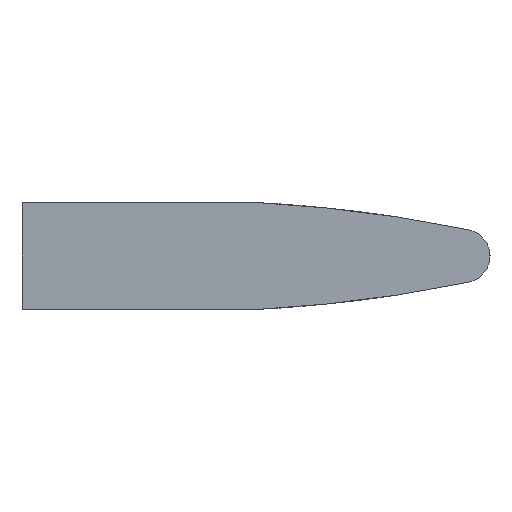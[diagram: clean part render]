
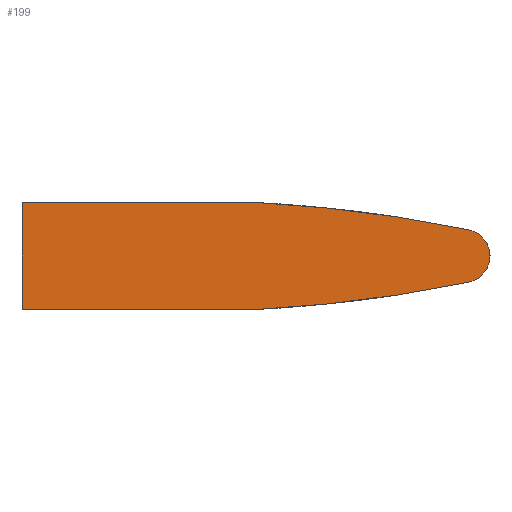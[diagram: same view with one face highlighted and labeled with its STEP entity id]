
A CAD part, left-side view. The second image highlights one B-rep face of the part: STEP entity #199.
In plain terms, the highlighted planar face has unit normal (-1, 0, 0).
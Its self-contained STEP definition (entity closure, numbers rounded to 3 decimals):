
#175 = VERTEX_POINT( '', #450 );
#177 = EDGE_CURVE( '', #353, #175, #452, .T. );
#191 = EDGE_CURVE( '', #275, #379, #466, .T. );
#197 = EDGE_CURVE( '', #341, #345, #472, .T. );
#199 = ADVANCED_FACE( '', ( #474 ), #475, .F. );
#241 = EDGE_CURVE( '', #379, #353, #520, .T. );
#259 = EDGE_CURVE( '', #345, #351, #540, .T. );
#271 = EDGE_CURVE( '', #351, #275, #553, .T. );
#275 = VERTEX_POINT( '', #557 );
#335 = EDGE_CURVE( '', #175, #341, #622, .T. );
#341 = VERTEX_POINT( '', #630 );
#345 = VERTEX_POINT( '', #634 );
#351 = VERTEX_POINT( '', #640 );
#353 = VERTEX_POINT( '', #642 );
#379 = VERTEX_POINT( '', #671 );
#450 = CARTESIAN_POINT( '', ( -26.5, -35., 0. ) );
#452 = CIRCLE( '', #769, 2. );
#466 = LINE( '', #790, #791 );
#472 = CIRCLE( '', #800, 106.818 );
#474 = FACE_OUTER_BOUND( '', #802, .T. );
#475 = PLANE( '', #803 );
#520 = CIRCLE( '', #897, 106.818 );
#540 = LINE( '', #925, #926 );
#553 = LINE( '', #940, #941 );
#557 = CARTESIAN_POINT( '', ( -26.5, 0., 4. ) );
#622 = CIRCLE( '', #1036, 2. );
#630 = CARTESIAN_POINT( '', ( -26.5, -33.402, -1.963 ) );
#634 = CARTESIAN_POINT( '', ( -26.5, -17.5, -4. ) );
#640 = CARTESIAN_POINT( '', ( -26.5, 0., -4. ) );
#642 = CARTESIAN_POINT( '', ( -26.5, -33.402, 1.963 ) );
#671 = CARTESIAN_POINT( '', ( -26.5, -17.5, 4. ) );
#769 = AXIS2_PLACEMENT_3D( '', #1172, #1173, #1174 );
#790 = CARTESIAN_POINT( '', ( -26.5, 0., 4. ) );
#791 = VECTOR( '', #1178, 1. );
#800 = AXIS2_PLACEMENT_3D( '', #1185, #1186, #1187 );
#802 = EDGE_LOOP( '', ( #1189, #1190, #1191, #1192, #1193, #1194, #1195 ) );
#803 = AXIS2_PLACEMENT_3D( '', #1196, #1197, #1198 );
#897 = AXIS2_PLACEMENT_3D( '', #1247, #1248, #1249 );
#925 = CARTESIAN_POINT( '', ( -26.5, -17.5, -4. ) );
#926 = VECTOR( '', #1278, 1. );
#940 = CARTESIAN_POINT( '', ( -26.5, 0., -4. ) );
#941 = VECTOR( '', #1287, 1. );
#1036 = AXIS2_PLACEMENT_3D( '', #1369, #1370, #1371 );
#1172 = CARTESIAN_POINT( '', ( -26.5, -33., 0.004 ) );
#1173 = DIRECTION( '', ( 1., 0., 0. ) );
#1174 = DIRECTION( '', ( 0., -0.201, 0.98 ) );
#1178 = DIRECTION( '', ( 0., -1., 0. ) );
#1185 = CARTESIAN_POINT( '', ( -26.5, -11.918, 102.672 ) );
#1186 = DIRECTION( '', ( 1., 0., 0. ) );
#1187 = DIRECTION( '', ( 0., -0.201, -0.98 ) );
#1189 = ORIENTED_EDGE( '', *, *, #177, .F. );
#1190 = ORIENTED_EDGE( '', *, *, #241, .F. );
#1191 = ORIENTED_EDGE( '', *, *, #191, .F. );
#1192 = ORIENTED_EDGE( '', *, *, #271, .F. );
#1193 = ORIENTED_EDGE( '', *, *, #259, .F. );
#1194 = ORIENTED_EDGE( '', *, *, #197, .F. );
#1195 = ORIENTED_EDGE( '', *, *, #335, .F. );
#1196 = CARTESIAN_POINT( '', ( -26.5, 0., 0. ) );
#1197 = DIRECTION( '', ( 1., 0., 0. ) );
#1198 = DIRECTION( '', ( 0., 0., -1. ) );
#1247 = CARTESIAN_POINT( '', ( -26.5, -11.918, -102.672 ) );
#1248 = DIRECTION( '', ( 1., 0., 0. ) );
#1249 = DIRECTION( '', ( 0., -0.052, 0.999 ) );
#1278 = DIRECTION( '', ( 0., 1., 0. ) );
#1287 = DIRECTION( '', ( 0., 0., 1. ) );
#1369 = CARTESIAN_POINT( '', ( -26.5, -33., -0.004 ) );
#1370 = DIRECTION( '', ( 1., 0., 0. ) );
#1371 = DIRECTION( '', ( 0., -1., 0.002 ) );
